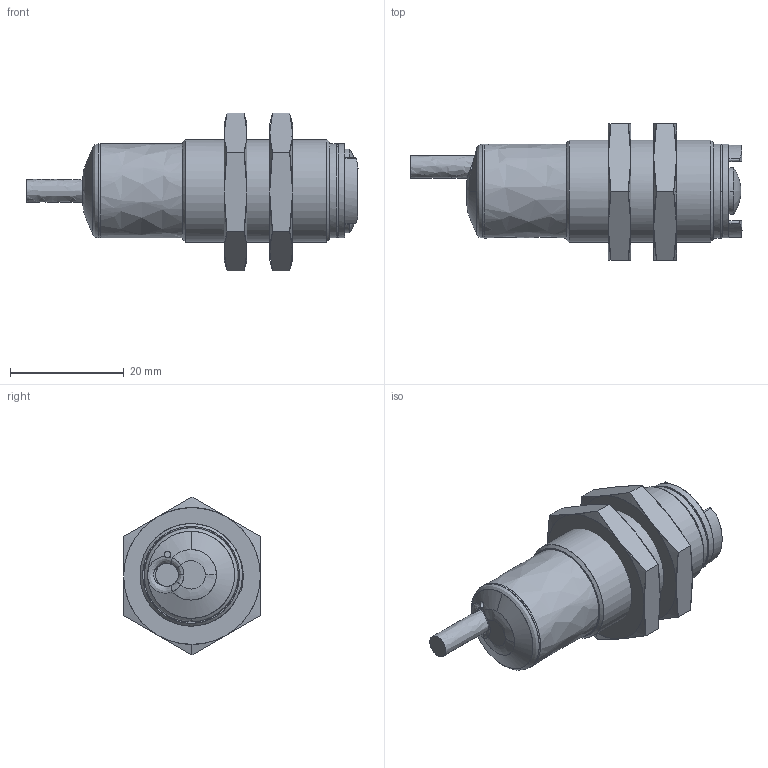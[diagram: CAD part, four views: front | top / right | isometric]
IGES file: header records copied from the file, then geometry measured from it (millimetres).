
Start section: C
Global section: file name: OR18.Zx.F-xWxZ.71CV.igs; native system:  By UGS Corp.; preprocessor: XPlus GENERIC/IGES 3.0; author: Author; organization: Title; date: 20160608.143704; units: millimetre
Bounding box: 58.3 x 24 x 27.71 mm (x, y, z)
Surface area: 5624.8 mm2 (no closed solid volume)
Topology: 0 solids, 0 shells, 152 faces, 769 edges, 767 vertices
Faces by surface type: bspline 152
